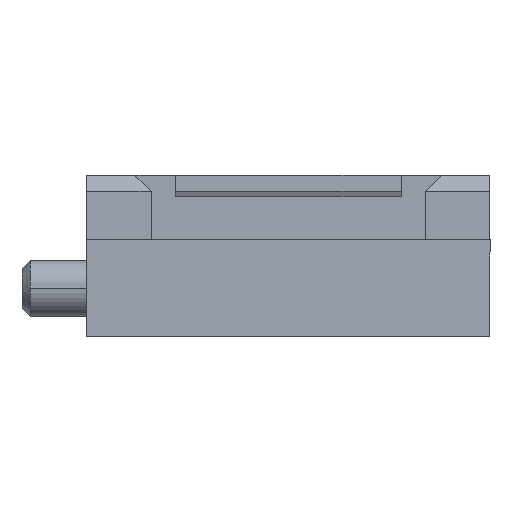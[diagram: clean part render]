
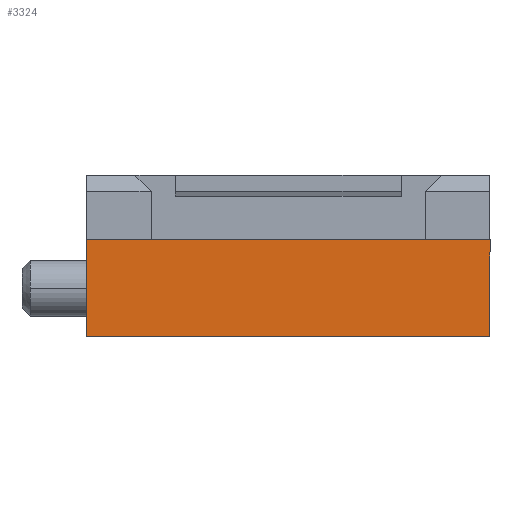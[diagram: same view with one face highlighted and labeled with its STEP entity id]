
A CAD part, front view. The second image highlights one B-rep face of the part: STEP entity #3324.
In plain terms, the highlighted planar face has unit normal (0, -1, 0).
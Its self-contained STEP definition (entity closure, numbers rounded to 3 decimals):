
#8 = EDGE_CURVE ( 'NONE', #59, #17, #773, .T. ) ;
#17 = VERTEX_POINT ( 'NONE', #775 ) ;
#54 = VERTEX_POINT ( 'NONE', #828 ) ;
#57 = EDGE_CURVE ( 'NONE', #54, #59, #867, .T. ) ;
#59 = VERTEX_POINT ( 'NONE', #882 ) ;
#68 = ORIENTED_EDGE ( 'NONE', *, *, #57, .T. ) ;
#768 = DIRECTION ( 'NONE',  ( 1., 0., 0. ) ) ;
#769 = VECTOR ( 'NONE', #768, 1000. ) ;
#772 = CARTESIAN_POINT ( 'NONE',  ( -12.5, -45., 0. ) ) ;
#773 = LINE ( 'NONE', #772, #769 ) ;
#775 = CARTESIAN_POINT ( 'NONE',  ( 12.5, -45., 0. ) ) ;
#828 = CARTESIAN_POINT ( 'NONE',  ( -12.5, -45., 6. ) ) ;
#864 = DIRECTION ( 'NONE',  ( 0., 0., -1. ) ) ;
#865 = VECTOR ( 'NONE', #864, 1000. ) ;
#866 = CARTESIAN_POINT ( 'NONE',  ( -12.5, -45., 10. ) ) ;
#867 = LINE ( 'NONE', #866, #865 ) ;
#882 = CARTESIAN_POINT ( 'NONE',  ( -12.5, -45., 0. ) ) ;
#2672 = CARTESIAN_POINT ( 'NONE',  ( -12.5, -45., 10. ) ) ;
#2673 = PLANE ( 'NONE',  #2727 ) ;
#2674 = LINE ( 'NONE', #2728, #2723 ) ;
#2676 = CARTESIAN_POINT ( 'NONE',  ( 12.5, -45., 6. ) ) ;
#2713 = LINE ( 'NONE', #2733, #2764 ) ;
#2722 = DIRECTION ( 'NONE',  ( 0., 0., -1. ) ) ;
#2723 = VECTOR ( 'NONE', #2722, 1000. ) ;
#2725 = DIRECTION ( 'NONE',  ( 0., 0., 1. ) ) ;
#2726 = DIRECTION ( 'NONE',  ( 0., 1., 0. ) ) ;
#2727 = AXIS2_PLACEMENT_3D ( 'NONE', #2672, #2726, #2725 ) ;
#2728 = CARTESIAN_POINT ( 'NONE',  ( 12.5, -45., 10. ) ) ;
#2730 = FACE_OUTER_BOUND ( 'NONE', #3326, .T. ) ;
#2733 = CARTESIAN_POINT ( 'NONE',  ( 12.5, -45., 6. ) ) ;
#2763 = DIRECTION ( 'NONE',  ( -1., 0., 0. ) ) ;
#2764 = VECTOR ( 'NONE', #2763, 1000. ) ;
#3324 = ADVANCED_FACE ( 'NONE', ( #2730 ), #2673, .F. ) ;
#3325 = EDGE_CURVE ( 'NONE', #3339, #17, #2674, .T. ) ;
#3326 = EDGE_LOOP ( 'NONE', ( #3338, #3335, #68, #3337 ) ) ;
#3334 = EDGE_CURVE ( 'NONE', #3339, #54, #2713, .T. ) ;
#3335 = ORIENTED_EDGE ( 'NONE', *, *, #3334, .T. ) ;
#3337 = ORIENTED_EDGE ( 'NONE', *, *, #8, .T. ) ;
#3338 = ORIENTED_EDGE ( 'NONE', *, *, #3325, .F. ) ;
#3339 = VERTEX_POINT ( 'NONE', #2676 ) ;
